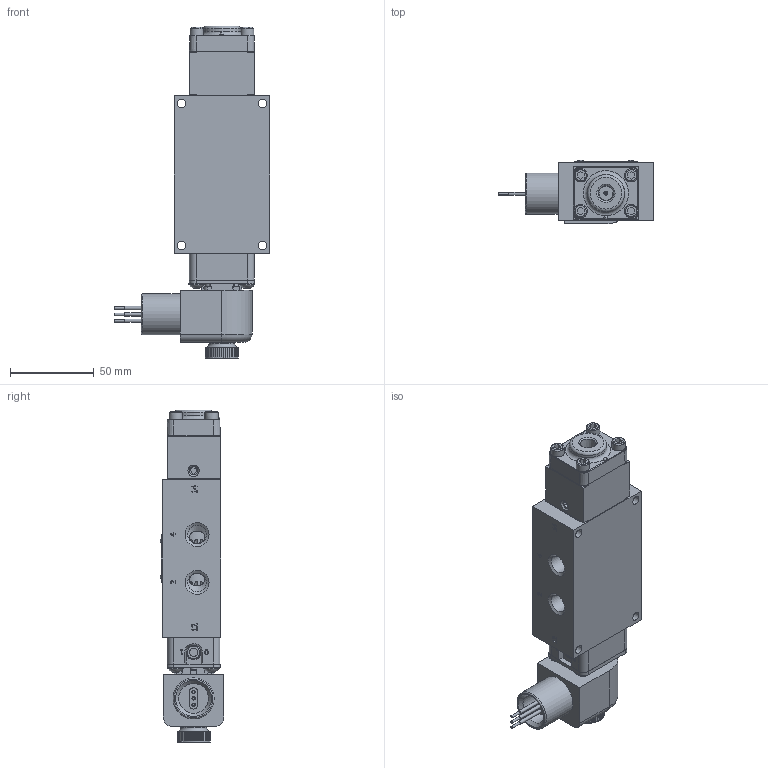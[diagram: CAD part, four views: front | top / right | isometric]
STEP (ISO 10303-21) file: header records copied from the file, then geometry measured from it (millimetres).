
FILE_DESCRIPTION(/* description */ (''),/* implementation_level */ '2;1');
FILE_NAME(/* name */ 'D:\Engineering\Product\valves\Assembly\standard\ESR\stp\ESR2XLQ.stp',/* time_stamp */ '2022-06-17T20:30:53-04:00',/* author */ ('RMcKenna'),/* organization */ (''),/* preprocessor_version */ 'ST-DEVELOPER v18.1',/* originating_system */ 'Autodesk Inventor 2021',/* authorisation */ '');
FILE_SCHEMA (('AUTOMOTIVE_DESIGN { 1 0 10303 214 3 1 1 }'));
Products named in the file (1): Part111
Bounding box: 92.98 x 37.92 x 198.5 mm (x, y, z)
Volume: 274662.3 mm3; surface area: 82773.8 mm2
Topology: 2 solids, 34 shells, 1857 faces, 4607 edges, 2952 vertices
Faces by surface type: plane 878, cylinder 455, cone 271, torus 127, bspline 119, sphere 7
Full cylindrical faces by diameter (mm): 1.016 x1, 1.3 x1, 1.397 x1, 1.5 x1, 1.524 x3, 2.032 x11, 2.07 x2, 2.261 x2, 2.35 x4, 2.362 x2, 2.381 x2, 2.778 x2, 2.8 x1, 2.819 x1, 3 x4, 3.048 x3, 3.175 x2, 3.4 x1, 3.683 x11, 3.912 x3, 4.191 x2, 4.394 x1, 4.826 x8, 4.953 x1, 4.978 x2, 5.15 x4, 5.156 x16, 5.159 x4, 5.5 x1, 6.553 x1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
Entity records: 61620 total; most frequent: CARTESIAN_POINT 15793, ORIENTED_EDGE 9174, DIRECTION 8940, EDGE_CURVE 4587, AXIS2_PLACEMENT_3D 3291, VERTEX_POINT 2952, LINE 2358, VECTOR 2358
